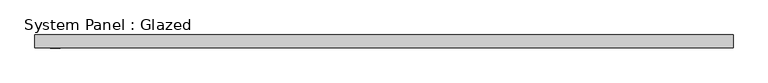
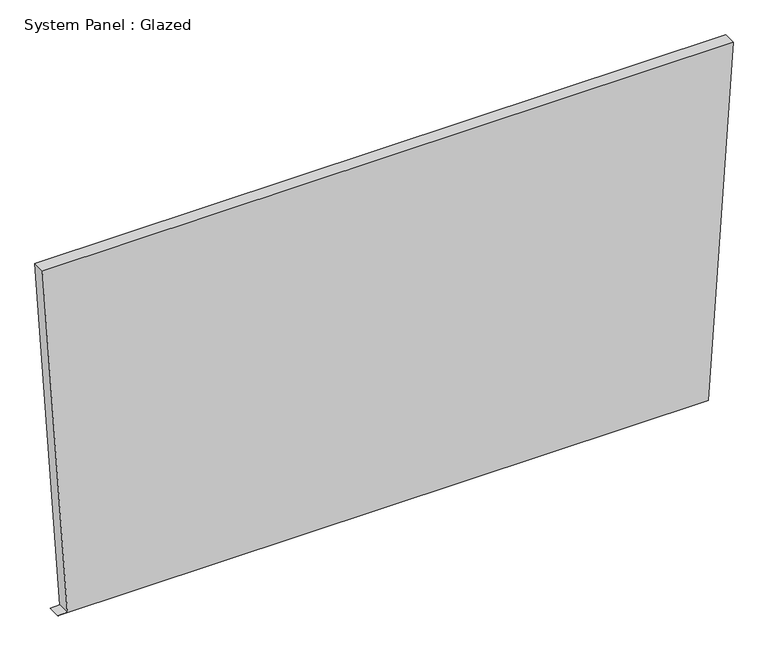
"""IFC4 building model written with IfcOpenShell, lengths in millimetres: plate geometry, System Panel : Glazed."""

from ifc_helpers import new_model, si_unit, frame, origin, place, context, project, spatial, polyline, outline, extrude, source, transform, mapped, element, save


def system_panel_glazed_fb6dfde9(model_context):
    return source(origin(), model_context, "Body", "SweptSolid", [
        extrude(outline(polyline([(0.0, -647.7899073), (0.0005758, 628.6967902), (726.8136448, 677.6237584), (726.8130335, -677.6237584), (1.2794955, -628.7829246), (0.0, -647.7899073)])), frame((0.0, 19.05, 0.0), z_axis=(0.0, 1.0, 0.0), x_axis=(0.0, 0.0, 1.0)), (0.0, 0.0, 1.0), 25.4),
    ])


if __name__ == "__main__":
    model = new_model("IFC4")
    model_context = context("Model", 3, world=origin())
    ifc_project = project(units=[si_unit("LENGTHUNIT", "METRE", prefix="MILLI")], contexts=[model_context])
    site = spatial("IfcSite", under=ifc_project)
    building = spatial("IfcBuilding", under=site)
    placement = place(None, origin())
    system_panel_glazed_shape = system_panel_glazed_fb6dfde9(model_context)
    element("IfcPlate", 1, ObjectType="System Panel : Glazed", at=placement, inside=building, context=model_context, shape_type="MappedRepresentation", body=[
        mapped(system_panel_glazed_shape, transform((0.0, 0.0, 0.0), x_axis=(1.0, 0.0, 0.0), y_axis=(0.0, 1.0, 0.0), z_axis=(0.0, 0.0, 1.0))),
    ])
    save(model, "model.ifc")
